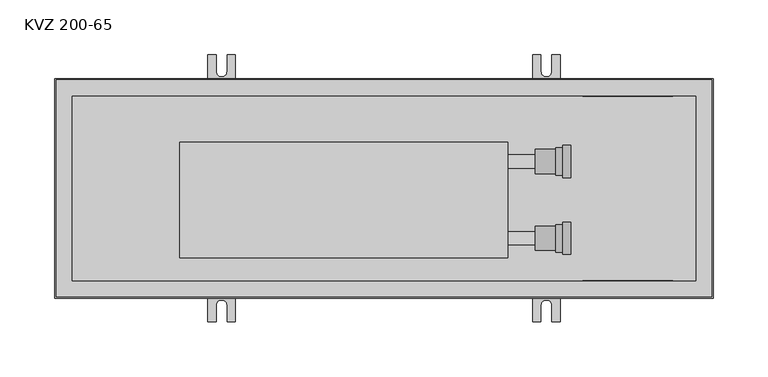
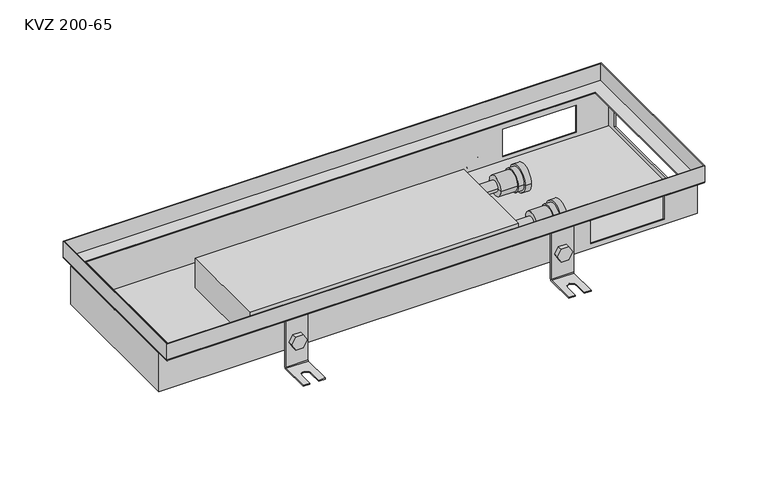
"""IFC4 building model written with IfcOpenShell, lengths in millimetres: proxy geometry, TECHNO_Конвектор встраиваемый_Usual_KVZ-200_65 : KVZ 200-65."""

from ifc_helpers import new_model, si_unit, point, frame, frame_2d, origin, place, context, project, spatial, polyline, circle_curve, ellipse_curve, trimmed, segment, composite_curve, outline, extrude, faceted_brep, source, transform, mapped, element, save
from ifc_brep_helpers import plane_surface, cylinder_surface, revolved_surface, advanced_brep


def kvz_200_65_8321f284(model_context):
    return source(origin(), model_context, "Body", "SolidModel", [
        extrude(outline(composite_curve([segment(trimmed(circle_curve(frame_2d((-55.5, 448.0)), 7.5), [point((-55.5, 440.5))], [point((-55.5, 455.5))], False, "CARTESIAN"), True, "CONTINUOUS"), segment(trimmed(circle_curve(frame_2d((-55.5, 448.0)), 7.5), [point((-55.5, 455.5))], [point((-55.5, 440.5))], False, "CARTESIAN"), True, "CONTINUOUS")], self_intersect=False)), frame((0.0, 85.2, 0.0), z_axis=(0.0, 1.0, 0.0), x_axis=(0.0, 0.0, 1.0)), (0.0, 0.0, 1.0), 1.5),
        extrude(outline(polyline([(-55.5, 439.339746), (-63.0, 443.669873), (-63.0, 452.330127), (-55.5, 456.660254), (-48.0, 452.330127), (-48.0, 443.669873), (-55.5, 439.339746)])), frame((0.0, 87.9, 0.0), z_axis=(0.0, 1.0, 0.0), x_axis=(0.0, 0.0, 1.0)), (0.0, 0.0, 1.0), 5.1),
        advanced_brep(
        [(460.5, 87.9, -20.5), (460.5, 86.7, -20.5), (460.5, 86.7, -83.5), (460.5, 88.7, -85.5), (460.5, 121.7, -85.5), (460.5, 121.7, -84.3), (460.5, 88.7, -84.3), (460.5, 87.9, -83.5), (435.5, 87.9, -20.5), (435.5, 87.9, -83.5), (435.5, 88.7, -84.3), (435.5, 121.7, -84.3), (435.5, 121.7, -85.5), (435.5, 88.7, -85.5), (435.5, 86.7, -83.5), (435.5, 86.7, -20.5), (453.0, 121.7, -84.3), (453.0, 106.7, -84.3), (443.0, 106.7, -84.3), (443.0, 121.7, -84.3), (443.0, 121.7, -85.5), (453.0, 121.7, -85.5), (443.0, 106.7, -85.5), (453.0, 106.7, -85.5)],
        [
            (0, 1),
            (1, 2),
            (2, 3, circle_curve(frame((460.5, 88.7, -83.5), z_axis=(1.0, 0.0, 0.0), x_axis=(0.0, 1.0, 0.0)), 2.0)),
            (3, 4),
            (4, 5),
            (5, 6),
            (6, 7, circle_curve(frame((460.5, 88.7, -83.5), z_axis=(-1.0, 0.0, 0.0), x_axis=(0.0, 1.0, 0.0)), 0.8)),
            (7, 0),
            (8, 9),
            (9, 10, circle_curve(frame((435.5, 88.7, -83.5), z_axis=(1.0, 0.0, 0.0), x_axis=(0.0, 1.0, 0.0)), 0.8)),
            (10, 11),
            (11, 12),
            (12, 13),
            (13, 14, circle_curve(frame((435.5, 88.7, -83.5), z_axis=(-1.0, 0.0, 0.0), x_axis=(0.0, 1.0, 0.0)), 2.0)),
            (14, 15),
            (15, 8),
            (7, 9),
            (8, 0),
            (6, 10),
            (5, 16),
            (16, 17),
            (17, 18, circle_curve(frame((448.0, 106.7, -84.3), z_axis=(0.0, 0.0, -1.0), x_axis=(1.0, 0.0, 0.0)), 5.0)),
            (18, 19),
            (19, 11),
            (19, 20),
            (20, 12),
            (4, 21),
            (21, 16),
            (3, 13),
            (20, 22),
            (22, 23, circle_curve(frame((448.0, 106.7, -85.5), z_axis=(0.0, 0.0, 1.0), x_axis=(1.0, 0.0, 0.0)), 5.0)),
            (23, 21),
            (2, 14),
            (1, 15),
            (18, 22),
            (23, 17),
        ],
        [
            plane_surface(frame((460.5, 87.9, -20.5), z_axis=(1.0, 0.0, 0.0), x_axis=(0.0, 0.0, -1.0))),
            plane_surface(frame((435.5, 87.9, -20.5), z_axis=(-1.0, 0.0, 0.0), x_axis=(0.0, 0.0, 1.0))),
            plane_surface(frame((460.5, 87.9, -20.5), z_axis=(0.0, 1.0, 0.0), x_axis=(-1.0, 0.0, 0.0))),
            revolved_surface(polyline([(435.5, 89.5, -83.5), (460.5, 89.5, -83.5)]), (435.5, 88.7, -83.5), (-1.0, 0.0, 0.0)),
            plane_surface(frame((460.5, 88.7, -84.3), z_axis=(0.0, 0.0, 1.0), x_axis=(-1.0, 0.0, 0.0))),
            plane_surface(frame((460.5, 121.7, -84.3), z_axis=(0.0, 1.0, 0.0), x_axis=(-1.0, 0.0, 0.0))),
            plane_surface(frame((460.5, 121.7, -85.5), z_axis=(0.0, 0.0, -1.0), x_axis=(-1.0, 0.0, 0.0))),
            cylinder_surface(frame((435.5, 88.7, -83.5), z_axis=(1.0, 0.0, 0.0), x_axis=(0.0, 1.0, 0.0)), 2.0),
            plane_surface(frame((460.5, 86.7, -83.5), z_axis=(0.0, -1.0, 0.0), x_axis=(-1.0, 0.0, 0.0))),
            plane_surface(frame((460.5, 86.7, -20.5), z_axis=(0.0, 0.0, 1.0), x_axis=(-1.0, 0.0, 0.0))),
            plane_surface(frame((443.0, 106.7, -84.3), z_axis=(1.0, 0.0, 0.0), x_axis=(0.0, 0.0, -1.0))),
            plane_surface(frame((453.0, 121.7, -84.3), z_axis=(-1.0, 0.0, 0.0), x_axis=(0.0, 0.0, -1.0))),
            revolved_surface(polyline([(453.0, 106.7, -84.3), (453.0, 106.7, -85.5)]), (448.0, 106.7, -85.5), (0.0, 0.0, 1.0)),
        ],
        [
            (0, [[1, 2, 3, 4, 5, 6, 7, 8]]),
            (1, [[9, 10, 11, 12, 13, 14, 15, 16]]),
            (2, [[17, -9, 18, -8]]),
            (3, [[19, -10, -17, -7]]),
            (4, [[20, 21, 22, 23, 24, -11, -19, -6]]),
            (5, [[-24, 25, 26, -12]]),
            (5, [[27, 28, -20, -5]]),
            (6, [[29, -13, -26, 30, 31, 32, -27, -4]]),
            (7, [[33, -14, -29, -3]]),
            (8, [[34, -15, -33, -2]]),
            (9, [[-18, -16, -34, -1]]),
            (10, [[-30, -25, -23, 35]]),
            (11, [[-21, -28, -32, 36]]),
            (12, [[-22, -36, -31, -35]]),
        ],
    ),
        extrude(outline(composite_curve([segment(trimmed(circle_curve(frame_2d((-55.5, 448.0)), 7.5), [point((-55.5, 440.5))], [point((-55.5, 455.5))], False, "CARTESIAN"), True, "CONTINUOUS"), segment(trimmed(circle_curve(frame_2d((-55.5, 448.0)), 7.5), [point((-55.5, 455.5))], [point((-55.5, 440.5))], False, "CARTESIAN"), True, "CONTINUOUS")], self_intersect=False)), frame((0.0, -86.7, 0.0), z_axis=(0.0, 1.0, 0.0), x_axis=(0.0, 0.0, 1.0)), (0.0, 0.0, 1.0), 1.5),
        extrude(outline(polyline([(-55.5, 439.339746), (-63.0, 443.669873), (-63.0, 452.330127), (-55.5, 456.660254), (-48.0, 452.330127), (-48.0, 443.669873), (-55.5, 439.339746)])), frame((0.0, -93.0, 0.0), z_axis=(0.0, 1.0, 0.0), x_axis=(0.0, 0.0, 1.0)), (0.0, 0.0, 1.0), 5.1),
        advanced_brep(
        [(460.5, -87.9, -20.5), (460.5, -87.9, -83.5), (460.5, -88.7, -84.3), (460.5, -121.7, -84.3), (460.5, -121.7, -85.5), (460.5, -88.7, -85.5), (460.5, -86.7, -83.5), (460.5, -86.7, -20.5), (435.5, -87.9, -20.5), (435.5, -86.7, -20.5), (435.5, -86.7, -83.5), (435.5, -88.7, -85.5), (435.5, -121.7, -85.5), (435.5, -121.7, -84.3), (435.5, -88.7, -84.3), (435.5, -87.9, -83.5), (443.0, -121.7, -84.3), (443.0, -106.7, -84.3), (453.0, -106.7, -84.3), (453.0, -121.7, -84.3), (453.0, -121.7, -85.5), (443.0, -121.7, -85.5), (453.0, -106.7, -85.5), (443.0, -106.7, -85.5)],
        [
            (0, 1),
            (1, 2, circle_curve(frame((460.5, -88.7, -83.5), z_axis=(-1.0, 0.0, 0.0), x_axis=(0.0, -1.0, 0.0)), 0.8)),
            (2, 3),
            (3, 4),
            (4, 5),
            (5, 6, circle_curve(frame((460.5, -88.7, -83.5), z_axis=(1.0, 0.0, 0.0), x_axis=(0.0, -1.0, 0.0)), 2.0)),
            (6, 7),
            (7, 0),
            (8, 9),
            (9, 10),
            (10, 11, circle_curve(frame((435.5, -88.7, -83.5), z_axis=(-1.0, 0.0, 0.0), x_axis=(0.0, -1.0, 0.0)), 2.0)),
            (11, 12),
            (12, 13),
            (13, 14),
            (14, 15, circle_curve(frame((435.5, -88.7, -83.5), z_axis=(1.0, 0.0, 0.0), x_axis=(0.0, -1.0, 0.0)), 0.8)),
            (15, 8),
            (0, 8),
            (15, 1),
            (14, 2),
            (13, 16),
            (16, 17),
            (17, 18, circle_curve(frame((448.0, -106.7, -84.3), z_axis=(0.0, 0.0, -1.0), x_axis=(1.0, 0.0, 0.0)), 5.0)),
            (18, 19),
            (19, 3),
            (19, 20),
            (20, 4),
            (12, 21),
            (21, 16),
            (20, 22),
            (22, 23, circle_curve(frame((448.0, -106.7, -85.5), z_axis=(0.0, 0.0, 1.0), x_axis=(1.0, 0.0, 0.0)), 5.0)),
            (23, 21),
            (11, 5),
            (10, 6),
            (9, 7),
            (23, 17),
            (18, 22),
        ],
        [
            plane_surface(frame((460.5, -87.9, -20.5), z_axis=(1.0, 0.0, 0.0), x_axis=(0.0, 0.0, -1.0))),
            plane_surface(frame((435.5, -87.9, -20.5), z_axis=(-1.0, 0.0, 0.0), x_axis=(0.0, 0.0, 1.0))),
            plane_surface(frame((460.5, -87.9, -20.5), z_axis=(0.0, -1.0, 0.0), x_axis=(-1.0, 0.0, 0.0))),
            revolved_surface(polyline([(435.5, -89.5, -83.5), (460.5, -89.5, -83.5)]), (435.5, -88.7, -83.5), (-1.0, 0.0, 0.0)),
            plane_surface(frame((460.5, -88.7, -84.3), z_axis=(0.0, 0.0, 1.0), x_axis=(-1.0, 0.0, 0.0))),
            plane_surface(frame((460.5, -121.7, -84.3), z_axis=(0.0, -1.0, 0.0), x_axis=(-1.0, 0.0, 0.0))),
            plane_surface(frame((460.5, -121.7, -85.5), z_axis=(0.0, 0.0, -1.0), x_axis=(-1.0, 0.0, 0.0))),
            cylinder_surface(frame((435.5, -88.7, -83.5), z_axis=(1.0, 0.0, 0.0), x_axis=(0.0, -1.0, 0.0)), 2.0),
            plane_surface(frame((460.5, -86.7, -83.5), z_axis=(0.0, 1.0, 0.0), x_axis=(-1.0, 0.0, 0.0))),
            plane_surface(frame((460.5, -86.7, -20.5), z_axis=(0.0, 0.0, 1.0), x_axis=(-1.0, 0.0, 0.0))),
            plane_surface(frame((443.0, -106.7, -84.3), z_axis=(1.0, 0.0, 0.0), x_axis=(0.0, 0.0, -1.0))),
            plane_surface(frame((453.0, -121.7, -84.3), z_axis=(-1.0, 0.0, 0.0), x_axis=(0.0, 0.0, -1.0))),
            revolved_surface(polyline([(453.0, -106.7, -84.3), (453.0, -106.7, -85.5)]), (448.0, -106.7, -85.5), (0.0, 0.0, 1.0)),
        ],
        [
            (0, [[1, 2, 3, 4, 5, 6, 7, 8]]),
            (1, [[9, 10, 11, 12, 13, 14, 15, 16]]),
            (2, [[-1, 17, -16, 18]]),
            (3, [[-2, -18, -15, 19]]),
            (4, [[-3, -19, -14, 20, 21, 22, 23, 24]]),
            (5, [[-4, -24, 25, 26]]),
            (5, [[-13, 27, 28, -20]]),
            (6, [[-5, -26, 29, 30, 31, -27, -12, 32]]),
            (7, [[-6, -32, -11, 33]]),
            (8, [[-7, -33, -10, 34]]),
            (9, [[-8, -34, -9, -17]]),
            (10, [[35, -21, -28, -31]]),
            (11, [[36, -29, -25, -23]]),
            (12, [[-35, -30, -36, -22]]),
        ],
    ),
        extrude(outline(composite_curve([segment(trimmed(circle_curve(frame_2d((-55.5, 152.0)), 7.5), [point((-55.5, 144.5))], [point((-55.5, 159.5))], False, "CARTESIAN"), True, "CONTINUOUS"), segment(trimmed(circle_curve(frame_2d((-55.5, 152.0)), 7.5), [point((-55.5, 159.5))], [point((-55.5, 144.5))], False, "CARTESIAN"), True, "CONTINUOUS")], self_intersect=False)), frame((0.0, 85.2, 0.0), z_axis=(0.0, 1.0, 0.0), x_axis=(0.0, 0.0, 1.0)), (0.0, 0.0, 1.0), 1.5),
        extrude(outline(polyline([(-55.5, 143.339746), (-63.0, 147.669873), (-63.0, 156.330127), (-55.5, 160.660254), (-48.0, 156.330127), (-48.0, 147.669873), (-55.5, 143.339746)])), frame((0.0, 87.9, 0.0), z_axis=(0.0, 1.0, 0.0), x_axis=(0.0, 0.0, 1.0)), (0.0, 0.0, 1.0), 5.1),
        advanced_brep(
        [(164.5, 87.9, -20.5), (164.5, 86.7, -20.5), (164.5, 86.7, -83.5), (164.5, 88.7, -85.5), (164.5, 121.7, -85.5), (164.5, 121.7, -84.3), (164.5, 88.7, -84.3), (164.5, 87.9, -83.5), (139.5, 87.9, -20.5), (139.5, 87.9, -83.5), (139.5, 88.7, -84.3), (139.5, 121.7, -84.3), (139.5, 121.7, -85.5), (139.5, 88.7, -85.5), (139.5, 86.7, -83.5), (139.5, 86.7, -20.5), (157.0, 121.7, -84.3), (157.0, 106.7, -84.3), (147.0, 106.7, -84.3), (147.0, 121.7, -84.3), (147.0, 121.7, -85.5), (157.0, 121.7, -85.5), (147.0, 106.7, -85.5), (157.0, 106.7, -85.5)],
        [
            (0, 1),
            (1, 2),
            (2, 3, circle_curve(frame((164.5, 88.7, -83.5), z_axis=(1.0, 0.0, 0.0), x_axis=(0.0, 1.0, 0.0)), 2.0)),
            (3, 4),
            (4, 5),
            (5, 6),
            (6, 7, circle_curve(frame((164.5, 88.7, -83.5), z_axis=(-1.0, 0.0, 0.0), x_axis=(0.0, 1.0, 0.0)), 0.8)),
            (7, 0),
            (8, 9),
            (9, 10, circle_curve(frame((139.5, 88.7, -83.5), z_axis=(1.0, 0.0, 0.0), x_axis=(0.0, 1.0, 0.0)), 0.8)),
            (10, 11),
            (11, 12),
            (12, 13),
            (13, 14, circle_curve(frame((139.5, 88.7, -83.5), z_axis=(-1.0, 0.0, 0.0), x_axis=(0.0, 1.0, 0.0)), 2.0)),
            (14, 15),
            (15, 8),
            (7, 9),
            (8, 0),
            (6, 10),
            (5, 16),
            (16, 17),
            (17, 18, circle_curve(frame((152.0, 106.7, -84.3), z_axis=(0.0, 0.0, -1.0), x_axis=(1.0, 0.0, 0.0)), 5.0)),
            (18, 19),
            (19, 11),
            (19, 20),
            (20, 12),
            (4, 21),
            (21, 16),
            (3, 13),
            (20, 22),
            (22, 23, circle_curve(frame((152.0, 106.7, -85.5), z_axis=(0.0, 0.0, 1.0), x_axis=(1.0, 0.0, 0.0)), 5.0)),
            (23, 21),
            (2, 14),
            (1, 15),
            (18, 22),
            (23, 17),
        ],
        [
            plane_surface(frame((164.5, 87.9, -20.5), z_axis=(1.0, 0.0, 0.0), x_axis=(0.0, 0.0, -1.0))),
            plane_surface(frame((139.5, 87.9, -20.5), z_axis=(-1.0, 0.0, 0.0), x_axis=(0.0, 0.0, 1.0))),
            plane_surface(frame((164.5, 87.9, -20.5), z_axis=(0.0, 1.0, 0.0), x_axis=(-1.0, 0.0, 0.0))),
            revolved_surface(polyline([(139.5, 89.5, -83.5), (164.5, 89.5, -83.5)]), (139.5, 88.7, -83.5), (-1.0, 0.0, 0.0)),
            plane_surface(frame((164.5, 88.7, -84.3), z_axis=(0.0, 0.0, 1.0), x_axis=(-1.0, 0.0, 0.0))),
            plane_surface(frame((164.5, 121.7, -84.3), z_axis=(0.0, 1.0, 0.0), x_axis=(-1.0, 0.0, 0.0))),
            plane_surface(frame((164.5, 121.7, -85.5), z_axis=(0.0, 0.0, -1.0), x_axis=(-1.0, 0.0, 0.0))),
            cylinder_surface(frame((139.5, 88.7, -83.5), z_axis=(1.0, 0.0, 0.0), x_axis=(0.0, 1.0, 0.0)), 2.0),
            plane_surface(frame((164.5, 86.7, -83.5), z_axis=(0.0, -1.0, 0.0), x_axis=(-1.0, 0.0, 0.0))),
            plane_surface(frame((164.5, 86.7, -20.5), z_axis=(0.0, 0.0, 1.0), x_axis=(-1.0, 0.0, 0.0))),
            plane_surface(frame((147.0, 106.7, -84.3), z_axis=(1.0, 0.0, 0.0), x_axis=(0.0, 0.0, -1.0))),
            plane_surface(frame((157.0, 121.7, -84.3), z_axis=(-1.0, 0.0, 0.0), x_axis=(0.0, 0.0, -1.0))),
            revolved_surface(polyline([(157.0, 106.7, -84.3), (157.0, 106.7, -85.5)]), (152.0, 106.7, -85.5), (0.0, 0.0, 1.0)),
        ],
        [
            (0, [[1, 2, 3, 4, 5, 6, 7, 8]]),
            (1, [[9, 10, 11, 12, 13, 14, 15, 16]]),
            (2, [[17, -9, 18, -8]]),
            (3, [[19, -10, -17, -7]]),
            (4, [[20, 21, 22, 23, 24, -11, -19, -6]]),
            (5, [[-24, 25, 26, -12]]),
            (5, [[27, 28, -20, -5]]),
            (6, [[29, -13, -26, 30, 31, 32, -27, -4]]),
            (7, [[33, -14, -29, -3]]),
            (8, [[34, -15, -33, -2]]),
            (9, [[-18, -16, -34, -1]]),
            (10, [[-30, -25, -23, 35]]),
            (11, [[-21, -28, -32, 36]]),
            (12, [[-22, -36, -31, -35]]),
        ],
    ),
        extrude(outline(composite_curve([segment(trimmed(circle_curve(frame_2d((-55.5, 152.0)), 7.5), [point((-55.5, 144.5))], [point((-55.5, 159.5))], False, "CARTESIAN"), True, "CONTINUOUS"), segment(trimmed(circle_curve(frame_2d((-55.5, 152.0)), 7.5), [point((-55.5, 159.5))], [point((-55.5, 144.5))], False, "CARTESIAN"), True, "CONTINUOUS")], self_intersect=False)), frame((0.0, -86.7, 0.0), z_axis=(0.0, 1.0, 0.0), x_axis=(0.0, 0.0, 1.0)), (0.0, 0.0, 1.0), 1.5),
        extrude(outline(polyline([(-55.5, 143.339746), (-63.0, 147.669873), (-63.0, 156.330127), (-55.5, 160.660254), (-48.0, 156.330127), (-48.0, 147.669873), (-55.5, 143.339746)])), frame((0.0, -93.0, 0.0), z_axis=(0.0, 1.0, 0.0), x_axis=(0.0, 0.0, 1.0)), (0.0, 0.0, 1.0), 5.1),
        advanced_brep(
        [(164.5, -87.9, -20.5), (164.5, -87.9, -83.5), (164.5, -88.7, -84.3), (164.5, -121.7, -84.3), (164.5, -121.7, -85.5), (164.5, -88.7, -85.5), (164.5, -86.7, -83.5), (164.5, -86.7, -20.5), (139.5, -87.9, -20.5), (139.5, -86.7, -20.5), (139.5, -86.7, -83.5), (139.5, -88.7, -85.5), (139.5, -121.7, -85.5), (139.5, -121.7, -84.3), (139.5, -88.7, -84.3), (139.5, -87.9, -83.5), (147.0, -121.7, -84.3), (147.0, -106.7, -84.3), (157.0, -106.7, -84.3), (157.0, -121.7, -84.3), (157.0, -121.7, -85.5), (147.0, -121.7, -85.5), (157.0, -106.7, -85.5), (147.0, -106.7, -85.5)],
        [
            (0, 1),
            (1, 2, circle_curve(frame((164.5, -88.7, -83.5), z_axis=(-1.0, 0.0, 0.0), x_axis=(0.0, -1.0, 0.0)), 0.8)),
            (2, 3),
            (3, 4),
            (4, 5),
            (5, 6, circle_curve(frame((164.5, -88.7, -83.5), z_axis=(1.0, 0.0, 0.0), x_axis=(0.0, -1.0, 0.0)), 2.0)),
            (6, 7),
            (7, 0),
            (8, 9),
            (9, 10),
            (10, 11, circle_curve(frame((139.5, -88.7, -83.5), z_axis=(-1.0, 0.0, 0.0), x_axis=(0.0, -1.0, 0.0)), 2.0)),
            (11, 12),
            (12, 13),
            (13, 14),
            (14, 15, circle_curve(frame((139.5, -88.7, -83.5), z_axis=(1.0, 0.0, 0.0), x_axis=(0.0, -1.0, 0.0)), 0.8)),
            (15, 8),
            (0, 8),
            (15, 1),
            (14, 2),
            (13, 16),
            (16, 17),
            (17, 18, circle_curve(frame((152.0, -106.7, -84.3), z_axis=(0.0, 0.0, -1.0), x_axis=(1.0, 0.0, 0.0)), 5.0)),
            (18, 19),
            (19, 3),
            (19, 20),
            (20, 4),
            (12, 21),
            (21, 16),
            (20, 22),
            (22, 23, circle_curve(frame((152.0, -106.7, -85.5), z_axis=(0.0, 0.0, 1.0), x_axis=(1.0, 0.0, 0.0)), 5.0)),
            (23, 21),
            (11, 5),
            (10, 6),
            (9, 7),
            (23, 17),
            (18, 22),
        ],
        [
            plane_surface(frame((164.5, -87.9, -20.5), z_axis=(1.0, 0.0, 0.0), x_axis=(0.0, 0.0, -1.0))),
            plane_surface(frame((139.5, -87.9, -20.5), z_axis=(-1.0, 0.0, 0.0), x_axis=(0.0, 0.0, 1.0))),
            plane_surface(frame((164.5, -87.9, -20.5), z_axis=(0.0, -1.0, 0.0), x_axis=(-1.0, 0.0, 0.0))),
            revolved_surface(polyline([(139.5, -89.5, -83.5), (164.5, -89.5, -83.5)]), (139.5, -88.7, -83.5), (-1.0, 0.0, 0.0)),
            plane_surface(frame((164.5, -88.7, -84.3), z_axis=(0.0, 0.0, 1.0), x_axis=(-1.0, 0.0, 0.0))),
            plane_surface(frame((164.5, -121.7, -84.3), z_axis=(0.0, -1.0, 0.0), x_axis=(-1.0, 0.0, 0.0))),
            plane_surface(frame((164.5, -121.7, -85.5), z_axis=(0.0, 0.0, -1.0), x_axis=(-1.0, 0.0, 0.0))),
            cylinder_surface(frame((139.5, -88.7, -83.5), z_axis=(1.0, 0.0, 0.0), x_axis=(0.0, -1.0, 0.0)), 2.0),
            plane_surface(frame((164.5, -86.7, -83.5), z_axis=(0.0, 1.0, 0.0), x_axis=(-1.0, 0.0, 0.0))),
            plane_surface(frame((164.5, -86.7, -20.5), z_axis=(0.0, 0.0, 1.0), x_axis=(-1.0, 0.0, 0.0))),
            plane_surface(frame((147.0, -106.7, -84.3), z_axis=(1.0, 0.0, 0.0), x_axis=(0.0, 0.0, -1.0))),
            plane_surface(frame((157.0, -121.7, -84.3), z_axis=(-1.0, 0.0, 0.0), x_axis=(0.0, 0.0, -1.0))),
            revolved_surface(polyline([(157.0, -106.7, -84.3), (157.0, -106.7, -85.5)]), (152.0, -106.7, -85.5), (0.0, 0.0, 1.0)),
        ],
        [
            (0, [[1, 2, 3, 4, 5, 6, 7, 8]]),
            (1, [[9, 10, 11, 12, 13, 14, 15, 16]]),
            (2, [[-1, 17, -16, 18]]),
            (3, [[-2, -18, -15, 19]]),
            (4, [[-3, -19, -14, 20, 21, 22, 23, 24]]),
            (5, [[-4, -24, 25, 26]]),
            (5, [[-13, 27, 28, -20]]),
            (6, [[-5, -26, 29, 30, 31, -27, -12, 32]]),
            (7, [[-6, -32, -11, 33]]),
            (8, [[-7, -33, -10, 34]]),
            (9, [[-8, -34, -9, -17]]),
            (10, [[35, -21, -28, -31]]),
            (11, [[36, -29, -25, -23]]),
            (12, [[-35, -30, -36, -22]]),
        ],
    ),
        advanced_brep(
        [(438.0, 24.5, -42.3), (438.0, 35.5, -42.3), (438.0, 13.5, -42.3), (456.5, 35.5, -42.3), (456.5, 13.5, -42.3), (456.5, 37.0, -42.3), (456.5, 12.0, -42.3), (463.0, 37.0, -42.3), (463.0, 12.0, -42.3), (463.0, 39.2, -42.3), (463.0, 9.8, -42.3), (470.0, 39.2, -42.3), (470.0, 9.8, -42.3), (470.0, 24.5, -42.3)],
        [
            (0, 1),
            (1, 2, circle_curve(frame((438.0, 24.5, -42.3), z_axis=(-1.0, 0.0, 0.0), x_axis=(0.0, 1.0, 0.0)), 11.0)),
            (2, 0),
            (2, 1, circle_curve(frame((438.0, 24.5, -42.3), z_axis=(-1.0, 0.0, 0.0), x_axis=(0.0, 1.0, 0.0)), 11.0)),
            (1, 3),
            (3, 4, circle_curve(frame((456.5, 24.5, -42.3), z_axis=(-1.0, 0.0, 0.0), x_axis=(0.0, 1.0, 0.0)), 11.0)),
            (4, 2),
            (4, 3, circle_curve(frame((456.5, 24.5, -42.3), z_axis=(-1.0, 0.0, 0.0), x_axis=(0.0, 1.0, 0.0)), 11.0)),
            (3, 5),
            (5, 6, circle_curve(frame((456.5, 24.5, -42.3), z_axis=(-1.0, 0.0, 0.0), x_axis=(0.0, 1.0, 0.0)), 12.5)),
            (6, 4),
            (6, 5, circle_curve(frame((456.5, 24.5, -42.3), z_axis=(-1.0, 0.0, 0.0), x_axis=(0.0, 1.0, 0.0)), 12.5)),
            (5, 7),
            (7, 8, circle_curve(frame((463.0, 24.5, -42.3), z_axis=(-1.0, 0.0, 0.0), x_axis=(0.0, 1.0, 0.0)), 12.5)),
            (8, 6),
            (8, 7, circle_curve(frame((463.0, 24.5, -42.3), z_axis=(-1.0, 0.0, 0.0), x_axis=(0.0, 1.0, 0.0)), 12.5)),
            (7, 9),
            (9, 10, circle_curve(frame((463.0, 24.5, -42.3), z_axis=(-1.0, 0.0, 0.0), x_axis=(0.0, 1.0, 0.0)), 14.7)),
            (10, 8),
            (10, 9, circle_curve(frame((463.0, 24.5, -42.3), z_axis=(-1.0, 0.0, 0.0), x_axis=(0.0, 1.0, 0.0)), 14.7)),
            (9, 11),
            (11, 12, circle_curve(frame((470.0, 24.5, -42.3), z_axis=(-1.0, 0.0, 0.0), x_axis=(0.0, 1.0, 0.0)), 14.7)),
            (12, 10),
            (12, 11, circle_curve(frame((470.0, 24.5, -42.3), z_axis=(-1.0, 0.0, 0.0), x_axis=(0.0, 1.0, 0.0)), 14.7)),
            (11, 13),
            (13, 12),
        ],
        [
            plane_surface(frame((438.0, 24.5, -42.3), z_axis=(-1.0, 0.0, 0.0), x_axis=(0.0, 1.0, 0.0))),
            cylinder_surface(frame((480.0, 24.5, -42.3), z_axis=(-1.0, 0.0, 0.0), x_axis=(0.0, 1.0, 0.0)), 11.0),
            plane_surface(frame((456.5, 24.5, -42.3), z_axis=(-1.0, 0.0, 0.0), x_axis=(0.0, 1.0, 0.0))),
            cylinder_surface(frame((480.0, 24.5, -42.3), z_axis=(-1.0, 0.0, 0.0), x_axis=(0.0, 1.0, 0.0)), 12.5),
            plane_surface(frame((463.0, 24.5, -42.3), z_axis=(-1.0, 0.0, 0.0), x_axis=(0.0, 1.0, 0.0))),
            cylinder_surface(frame((480.0, 24.5, -42.3), z_axis=(-1.0, 0.0, 0.0), x_axis=(0.0, 1.0, 0.0)), 14.7),
            plane_surface(frame((470.0, 24.5, -42.3), z_axis=(1.0, 0.0, 0.0), x_axis=(0.0, 1.0, 0.0))),
        ],
        [
            (0, [[1, 2, 3]]),
            (0, [[-3, 4, -1]]),
            (1, [[-2, 5, 6, 7]]),
            (1, [[-4, -7, 8, -5]]),
            (2, [[-6, 9, 10, 11]]),
            (2, [[-8, -11, 12, -9]]),
            (3, [[-10, 13, 14, 15]]),
            (3, [[-12, -15, 16, -13]]),
            (4, [[-14, 17, 18, 19]]),
            (4, [[-16, -19, 20, -17]]),
            (5, [[-18, 21, 22, 23]]),
            (5, [[-20, -23, 24, -21]]),
            (6, [[-22, 25, 26]]),
            (6, [[-24, -26, -25]]),
        ],
    ),
        advanced_brep(
        [(438.0, -45.5, -42.3), (438.0, -34.5, -42.3), (438.0, -56.5, -42.3), (456.5, -34.5, -42.3), (456.5, -56.5, -42.3), (456.5, -33.0, -42.3), (456.5, -58.0, -42.3), (463.0, -33.0, -42.3), (463.0, -58.0, -42.3), (463.0, -30.8, -42.3), (463.0, -60.2, -42.3), (470.0, -30.8, -42.3), (470.0, -60.2, -42.3), (470.0, -45.5, -42.3)],
        [
            (0, 1),
            (1, 2, circle_curve(frame((438.0, -45.5, -42.3), z_axis=(-1.0, 0.0, 0.0), x_axis=(0.0, 1.0, 0.0)), 11.0)),
            (2, 0),
            (2, 1, circle_curve(frame((438.0, -45.5, -42.3), z_axis=(-1.0, 0.0, 0.0), x_axis=(0.0, 1.0, 0.0)), 11.0)),
            (1, 3),
            (3, 4, circle_curve(frame((456.5, -45.5, -42.3), z_axis=(-1.0, 0.0, 0.0), x_axis=(0.0, 1.0, 0.0)), 11.0)),
            (4, 2),
            (4, 3, circle_curve(frame((456.5, -45.5, -42.3), z_axis=(-1.0, 0.0, 0.0), x_axis=(0.0, 1.0, 0.0)), 11.0)),
            (3, 5),
            (5, 6, circle_curve(frame((456.5, -45.5, -42.3), z_axis=(-1.0, 0.0, 0.0), x_axis=(0.0, 1.0, 0.0)), 12.5)),
            (6, 4),
            (6, 5, circle_curve(frame((456.5, -45.5, -42.3), z_axis=(-1.0, 0.0, 0.0), x_axis=(0.0, 1.0, 0.0)), 12.5)),
            (5, 7),
            (7, 8, circle_curve(frame((463.0, -45.5, -42.3), z_axis=(-1.0, 0.0, 0.0), x_axis=(0.0, 1.0, 0.0)), 12.5)),
            (8, 6),
            (8, 7, circle_curve(frame((463.0, -45.5, -42.3), z_axis=(-1.0, 0.0, 0.0), x_axis=(0.0, 1.0, 0.0)), 12.5)),
            (7, 9),
            (9, 10, circle_curve(frame((463.0, -45.5, -42.3), z_axis=(-1.0, 0.0, 0.0), x_axis=(0.0, 1.0, 0.0)), 14.7)),
            (10, 8),
            (10, 9, circle_curve(frame((463.0, -45.5, -42.3), z_axis=(-1.0, 0.0, 0.0), x_axis=(0.0, 1.0, 0.0)), 14.7)),
            (9, 11),
            (11, 12, circle_curve(frame((470.0, -45.5, -42.3), z_axis=(-1.0, 0.0, 0.0), x_axis=(0.0, 1.0, 0.0)), 14.7)),
            (12, 10),
            (12, 11, circle_curve(frame((470.0, -45.5, -42.3), z_axis=(-1.0, 0.0, 0.0), x_axis=(0.0, 1.0, 0.0)), 14.7)),
            (11, 13),
            (13, 12),
        ],
        [
            plane_surface(frame((438.0, -45.5, -42.3), z_axis=(-1.0, 0.0, 0.0), x_axis=(0.0, 1.0, 0.0))),
            cylinder_surface(frame((480.0, -45.5, -42.3), z_axis=(-1.0, 0.0, 0.0), x_axis=(0.0, 1.0, 0.0)), 11.0),
            plane_surface(frame((456.5, -45.5, -42.3), z_axis=(-1.0, 0.0, 0.0), x_axis=(0.0, 1.0, 0.0))),
            cylinder_surface(frame((480.0, -45.5, -42.3), z_axis=(-1.0, 0.0, 0.0), x_axis=(0.0, 1.0, 0.0)), 12.5),
            plane_surface(frame((463.0, -45.5, -42.3), z_axis=(-1.0, 0.0, 0.0), x_axis=(0.0, 1.0, 0.0))),
            cylinder_surface(frame((480.0, -45.5, -42.3), z_axis=(-1.0, 0.0, 0.0), x_axis=(0.0, 1.0, 0.0)), 14.7),
            plane_surface(frame((470.0, -45.5, -42.3), z_axis=(1.0, 0.0, 0.0), x_axis=(0.0, 1.0, 0.0))),
        ],
        [
            (0, [[1, 2, 3]]),
            (0, [[-3, 4, -1]]),
            (1, [[-2, 5, 6, 7]]),
            (1, [[-4, -7, 8, -5]]),
            (2, [[-6, 9, 10, 11]]),
            (2, [[-8, -11, 12, -9]]),
            (3, [[-10, 13, 14, 15]]),
            (3, [[-12, -15, 16, -13]]),
            (4, [[-14, 17, 18, 19]]),
            (4, [[-16, -19, 20, -17]]),
            (5, [[-18, 21, 22, 23]]),
            (5, [[-20, -23, 24, -21]]),
            (6, [[-22, 25, 26]]),
            (6, [[-24, -26, -25]]),
        ],
    ),
        extrude(outline(composite_curve([segment(trimmed(circle_curve(frame_2d((24.5, -42.3)), 6.0), [point((18.5, -42.3))], [point((30.5, -42.3))], False, "CARTESIAN"), True, "CONTINUOUS"), segment(trimmed(circle_curve(frame_2d((24.5, -42.3)), 6.0), [point((30.5, -42.3))], [point((18.5, -42.3))], False, "CARTESIAN"), True, "CONTINUOUS")], self_intersect=False)), frame((413.0, 0.0, 0.0), z_axis=(1.0, 0.0, 0.0), x_axis=(0.0, 1.0, 0.0)), (0.0, 0.0, 1.0), 25.0),
        extrude(outline(composite_curve([segment(trimmed(circle_curve(frame_2d((-45.5, -42.3)), 6.0), [point((-51.5, -42.3))], [point((-39.5, -42.3))], False, "CARTESIAN"), True, "CONTINUOUS"), segment(trimmed(circle_curve(frame_2d((-45.5, -42.3)), 6.0), [point((-39.5, -42.3))], [point((-51.5, -42.3))], False, "CARTESIAN"), True, "CONTINUOUS")], self_intersect=False)), frame((413.0, 0.0, 0.0), z_axis=(1.0, 0.0, 0.0), x_axis=(0.0, 1.0, 0.0)), (0.0, 0.0, 1.0), 25.0),
        extrude(outline(polyline([(413.0, 42.0), (413.0, -63.0), (114.0, -63.0), (114.0, 42.0), (413.0, 42.0)])), frame((0.0, 0.0, -59.8), z_axis=(0.0, 0.0, 1.0), x_axis=(1.0, 0.0, 0.0)), (0.0, 0.0, 1.0), 35.0),
        faceted_brep([(598.8, -84.0, -63.8), (598.8, 84.0, -63.8), (1.2, 84.0, -63.8), (1.2, -84.0, -63.8), (0.0, -85.2, -65.0), (0.0, 85.2, -65.0), (600.0, 85.2, -65.0), (600.0, -85.2, -65.0), (600.0, -85.2, -20.5), (0.0, -85.2, -20.5), (481.0, -85.2, -27.0), (563.0, -85.2, -27.0), (563.0, -85.2, -59.0), (481.0, -85.2, -59.0), (600.0, 85.2, -20.5), (600.0, 72.6, -26.0), (600.0, 72.6, -58.0), (600.0, -75.0, -58.0), (600.0, -75.0, -26.0), (0.0, 85.2, -20.5), (563.0, 85.2, -27.0), (481.0, 85.2, -27.0), (481.0, 85.2, -59.0), (563.0, 85.2, -59.0), (598.8, -84.0, -20.5), (598.8, 84.0, -20.5), (598.8, 72.6, -58.0), (598.8, 72.6, -26.0), (598.8, -75.0, -26.0), (598.8, -75.0, -58.0), (1.2, -84.0, -20.5), (563.0, -84.0, -27.0), (481.0, -84.0, -27.0), (481.0, -84.0, -59.0), (563.0, -84.0, -59.0), (1.2, 84.0, -20.5), (481.0, 84.0, -27.0), (563.0, 84.0, -27.0), (563.0, 84.0, -59.0), (481.0, 84.0, -59.0)], [[[0, 1, 2, 3]], [[4, 5, 6, 7]], [[4, 7, 8, 9], [10, 11, 12, 13]], [[7, 6, 14, 8], [15, 16, 17, 18]], [[6, 5, 19, 14], [20, 21, 22, 23]], [[5, 4, 9, 19]], [[24, 25, 1, 0], [26, 27, 28, 29]], [[30, 24, 0, 3], [31, 32, 33, 34]], [[35, 30, 3, 2]], [[25, 35, 2, 1], [36, 37, 38, 39]], [[8, 14, 19, 9], [25, 24, 30, 35]], [[31, 11, 10, 32]], [[20, 37, 36, 21]], [[32, 10, 13, 33]], [[21, 36, 39, 22]], [[33, 13, 12, 34]], [[22, 39, 38, 23]], [[11, 31, 34, 12]], [[37, 20, 23, 38]], [[15, 27, 26, 16]], [[27, 15, 18, 28]], [[28, 18, 17, 29]], [[16, 26, 29, 17]]]),
        advanced_brep(
        [(584.0, 84.0, -19.3), (584.0, 84.0, -20.5), (584.0, -84.0, -20.5), (584.0, -84.0, -19.3), (598.8, 98.8, 0.0), (598.8, 98.8, -19.3), (598.8, -98.8, -19.3), (598.8, -98.8, 0.0), (600.0, 100.0, -18.5), (600.0, 100.0, 0.0), (600.0, -100.0, 0.0), (600.0, -100.0, -18.5), (16.0, -84.0, -20.5), (16.0, -84.0, -19.3), (1.2, -98.8, -19.3), (1.2, -98.8, 0.0), (0.0, -100.0, 0.0), (0.0, -100.0, -18.5), (16.0, 84.0, -20.5), (16.0, 84.0, -19.3), (1.2, 98.8, -19.3), (1.2, 98.8, 0.0), (0.0, 100.0, 0.0), (0.0, 100.0, -18.5), (598.0, -98.0, -20.5), (2.0, -98.0, -20.5), (2.0, 98.0, -20.5), (598.0, 98.0, -20.5)],
        [
            (0, 1),
            (1, 2),
            (2, 3),
            (3, 0),
            (4, 5),
            (5, 6),
            (6, 7),
            (7, 4),
            (8, 9),
            (9, 10),
            (10, 11),
            (11, 8),
            (2, 12),
            (12, 13),
            (13, 3),
            (6, 14),
            (14, 15),
            (15, 7),
            (10, 16),
            (16, 17),
            (17, 11),
            (12, 18),
            (18, 19),
            (19, 13),
            (14, 20),
            (20, 21),
            (21, 15),
            (16, 22),
            (22, 23),
            (23, 17),
            (24, 25),
            (25, 26),
            (26, 27),
            (27, 24),
            (1, 18),
            (0, 19),
            (5, 20),
            (4, 21),
            (9, 22),
            (8, 23),
            (27, 8, ellipse_curve(frame((598.0, 98.0, -18.5), z_axis=(0.7071067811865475, -0.7071067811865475, 0.0), x_axis=(0.7071067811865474, 0.7071067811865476, 0.0)), 2.8284271, 2.0)),
            (11, 24, ellipse_curve(frame((598.0, -98.0, -18.5), z_axis=(0.7071067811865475, 0.7071067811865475, 0.0), x_axis=(-0.7071067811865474, 0.7071067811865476, 0.0)), 2.8284271, 2.0)),
            (17, 25, ellipse_curve(frame((2.0, -98.0, -18.5), z_axis=(0.7071067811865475, -0.7071067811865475, 0.0), x_axis=(0.7071067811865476, 0.7071067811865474, 0.0)), 2.8284271, 2.0)),
            (23, 26, ellipse_curve(frame((2.0, 98.0, -18.5), z_axis=(-0.7071067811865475, -0.7071067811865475, 0.0), x_axis=(0.7071067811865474, -0.7071067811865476, 0.0)), 2.8284271, 2.0)),
        ],
        [
            plane_surface(frame((584.0, 84.0, -20.5), z_axis=(-1.0, 0.0, 0.0), x_axis=(0.0, -1.0, 0.0))),
            plane_surface(frame((598.8, 98.8, -19.3), z_axis=(-1.0, 0.0, 0.0), x_axis=(0.0, -1.0, 0.0))),
            plane_surface(frame((600.0, 100.0, 0.0), z_axis=(1.0, 0.0, 0.0), x_axis=(0.0, -1.0, 0.0))),
            plane_surface(frame((584.0, -84.0, -20.5), z_axis=(0.0, 1.0, 0.0), x_axis=(-1.0, 0.0, 0.0))),
            plane_surface(frame((598.8, -98.8, -19.3), z_axis=(0.0, 1.0, 0.0), x_axis=(-1.0, 0.0, 0.0))),
            plane_surface(frame((600.0, -100.0, 0.0), z_axis=(0.0, -1.0, 0.0), x_axis=(-1.0, 0.0, 0.0))),
            plane_surface(frame((16.0, -84.0, -20.5), z_axis=(1.0, 0.0, 0.0), x_axis=(0.0, 1.0, 0.0))),
            plane_surface(frame((1.2, -98.8, -19.3), z_axis=(1.0, 0.0, 0.0), x_axis=(0.0, 1.0, 0.0))),
            plane_surface(frame((0.0, -100.0, 0.0), z_axis=(-1.0, 0.0, 0.0), x_axis=(0.0, 1.0, 0.0))),
            plane_surface(frame((2.0, 98.0, -20.5), z_axis=(0.0, 0.0, -1.0), x_axis=(1.0, 0.0, 0.0))),
            plane_surface(frame((16.0, 84.0, -20.5), z_axis=(0.0, -1.0, 0.0), x_axis=(1.0, 0.0, 0.0))),
            plane_surface(frame((16.0, 84.0, -19.3), z_axis=(0.0, 0.0, 1.0), x_axis=(1.0, 0.0, 0.0))),
            plane_surface(frame((1.2, 98.8, -19.3), z_axis=(0.0, -1.0, 0.0), x_axis=(1.0, 0.0, 0.0))),
            plane_surface(frame((1.2, 98.8, 0.0), z_axis=(0.0, 0.0, 1.0), x_axis=(1.0, 0.0, 0.0))),
            plane_surface(frame((0.0, 100.0, 0.0), z_axis=(0.0, 1.0, 0.0), x_axis=(1.0, 0.0, 0.0))),
            cylinder_surface(frame((598.0, 100.0, -18.5), z_axis=(0.0, 1.0, 0.0), x_axis=(1.0, 0.0, 0.0)), 2.0),
            cylinder_surface(frame((600.0, -98.0, -18.5), z_axis=(1.0, 0.0, 0.0), x_axis=(0.0, -1.0, 0.0)), 2.0),
            cylinder_surface(frame((2.0, -100.0, -18.5), z_axis=(0.0, -1.0, 0.0), x_axis=(-1.0, 0.0, 0.0)), 2.0),
            cylinder_surface(frame((0.0, 98.0, -18.5), z_axis=(-1.0, 0.0, 0.0), x_axis=(0.0, 1.0, 0.0)), 2.0),
        ],
        [
            (0, [[1, 2, 3, 4]]),
            (1, [[5, 6, 7, 8]]),
            (2, [[9, 10, 11, 12]]),
            (3, [[-3, 13, 14, 15]]),
            (4, [[-7, 16, 17, 18]]),
            (5, [[-11, 19, 20, 21]]),
            (6, [[-14, 22, 23, 24]]),
            (7, [[-17, 25, 26, 27]]),
            (8, [[-20, 28, 29, 30]]),
            (9, [[31, 32, 33, 34], [35, -22, -13, -2]]),
            (10, [[-23, -35, -1, 36]]),
            (11, [[37, -25, -16, -6], [-15, -24, -36, -4]]),
            (12, [[-26, -37, -5, 38]]),
            (13, [[39, -28, -19, -10], [-18, -27, -38, -8]]),
            (14, [[-29, -39, -9, 40]]),
            (15, [[41, -12, 42, -34]]),
            (16, [[-42, -21, 43, -31]]),
            (17, [[-43, -30, 44, -32]]),
            (18, [[-44, -40, -41, -33]]),
        ],
    ),
    ])


if __name__ == "__main__":
    model = new_model("IFC4")
    model_context = context("Model", 3, world=origin())
    ifc_project = project(units=[si_unit("LENGTHUNIT", "METRE", prefix="MILLI")], contexts=[model_context])
    site = spatial("IfcSite", under=ifc_project)
    building = spatial("IfcBuilding", under=site)
    placement = place(None, origin())
    kvz_200_65_shape = kvz_200_65_8321f284(model_context)
    element("IfcBuildingElementProxy", 1, Name="TECHNO_Конвектор встраиваемый_Usual_KVZ-200_65 : KVZ 200-65", ObjectType="TECHNO_Конвектор встраиваемый_Usual_KVZ-200_65 : KVZ 200-65", at=placement, inside=building, context=model_context, shape_type="MappedRepresentation", body=[
        mapped(kvz_200_65_shape, transform((0.0, 0.0, 0.0), x_axis=(1.0, 0.0, 0.0), y_axis=(0.0, 1.0, 0.0), z_axis=(0.0, 0.0, 1.0))),
    ])
    save(model, "model.ifc")
